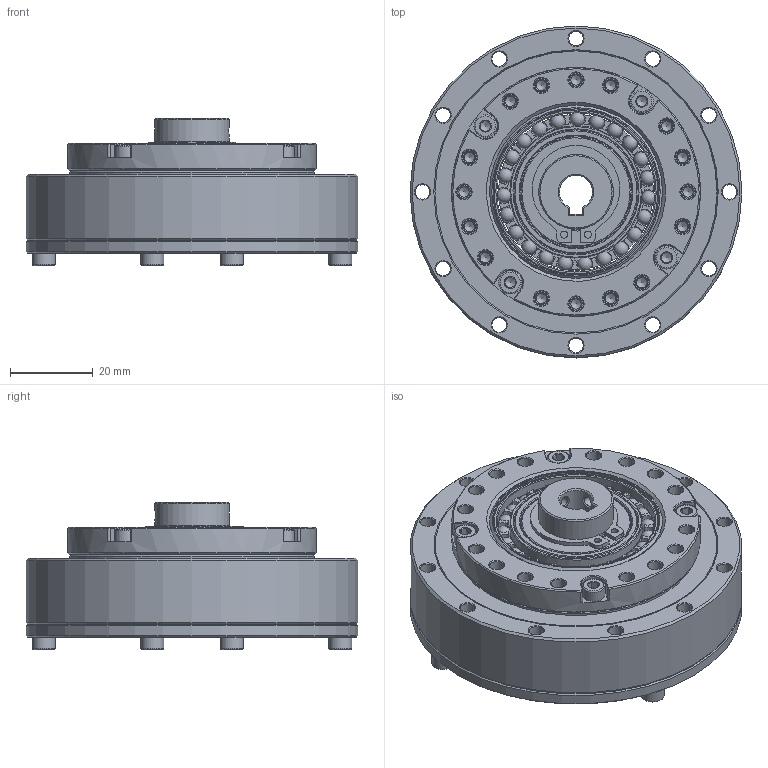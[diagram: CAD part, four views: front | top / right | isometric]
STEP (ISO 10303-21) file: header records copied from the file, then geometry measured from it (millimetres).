
FILE_DESCRIPTION(/* description */ (''),/* implementation_level */ '2;1');
FILE_NAME(/* name */ 'LHG-17-XX-U-II-φ8.stp',/* time_stamp */ '2023-07-08T16:13:56+08:00',/* author */ (''),/* organization */ (''),/* preprocessor_version */ 'ST-DEVELOPER v16.7',/* originating_system */ 'SIEMENS PLM Software NX 12.0',/* authorisation */ '');
FILE_SCHEMA (('AUTOMOTIVE_DESIGN { 1 0 10303 214 3 1 1 1 }'));
Length unit declared in the file: millimetre
Products named in the file (16): EB304006-17KE-01; EB304006-17KC-46; TC-59x68x5; O-47x0.5; O-65x1.5; GB-T70.1-2000,M3x8; 轴用弹性挡圈φ18; 铜垫圈18.5x26.5x1; CS-17-00-02; CSG-17-00-01-K8; CS-17-XX-03; 柔轮LHT-17; 刚轮LHT-17-I; EB304006-17KE; 交叉轴承LHT-17; LHG-17-XX-U-II-φ8
Assembly tree (22 placements, depth 3):
  LHG-17-XX-U-II-φ8
    交叉轴承LHT-17
      TC-59x68x5
    刚轮LHT-17-I
    柔轮LHT-17
    CS-17-XX-03
    CSG-17-00-01-K8
    CS-17-00-02
    铜垫圈18.5x26.5x1
    轴用弹性挡圈φ18
    EB304006-17KE
      EB304006-17KC-46
      EB304006-17KE-01
    GB-T70.1-2000,M3x8  x8
    O-65x1.5
    O-47x0.5
Bounding box: 80 x 80 x 35.5 mm (x, y, z)
Volume: 76237 mm3; surface area: 65762.5 mm2
Topology: 46 solids, 46 shells, 968 faces, 2337 edges, 1440 vertices
Faces by surface type: plane 338, cone 276, cylinder 233, torus 92, sphere 23, bspline 4, revolution 2
Full cylindrical faces by diameter (mm): 1.7 x2, 2.5 x30, 2.874 x8, 3.5 x52, 5.5 x8, 17 x1, 18 x2, 18.5 x3, 26.5 x1, 27 x1, 28 x2, 30 x2, 31.88 x2, 33 x1, 34.5 x1, 37.3 x1, 38.16 x2, 40 x2, 40.58 x1, 41.545 x1, 41.703 x1, 44.1 x1, 47 x2, 47.4 x1, 48.4 x1, 55.8 x1, 58.6 x1, 59 x2, 60 x2, 61.3 x2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
Entity records: 22820 total; most frequent: CARTESIAN_POINT 5360, DIRECTION 3686, ORIENTED_EDGE 2854, AXIS2_PLACEMENT_3D 1628, EDGE_CURVE 1427, EDGE_LOOP 1274, VERTEX_POINT 1139, FACE_BOUND 990
